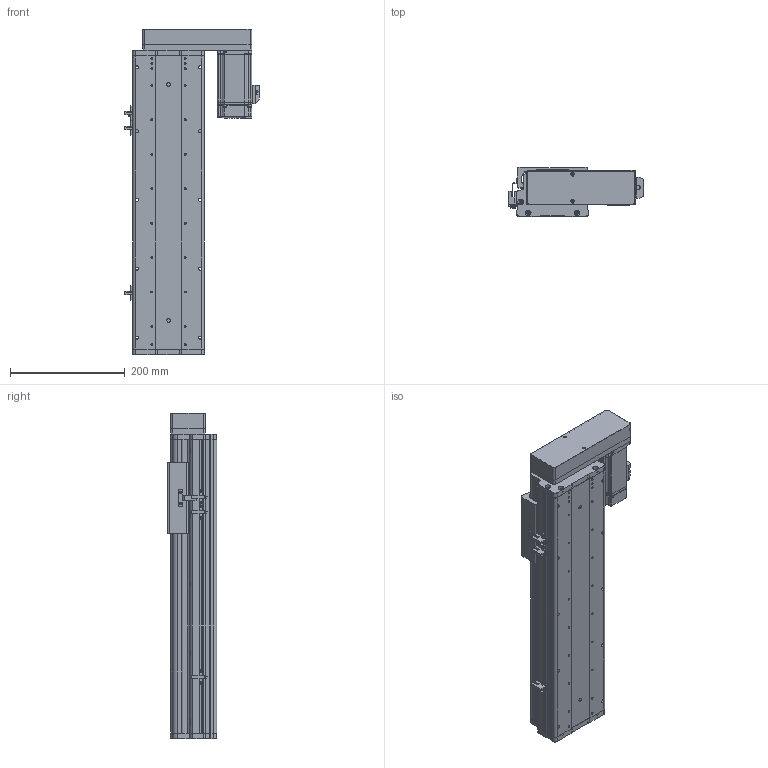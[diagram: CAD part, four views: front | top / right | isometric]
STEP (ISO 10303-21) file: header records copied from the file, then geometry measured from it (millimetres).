
FILE_DESCRIPTION (( 'STEP AP214' ), '1' );
FILE_NAME ('KSD125S-S300-MR-CM.STEP', '2017-10-21T08:52:59', ( '微软用户' ), ( '微软中国' ), 'SwSTEP 2.0', 'SolidWorks 2014', '' );
FILE_SCHEMA (( 'AUTOMOTIVE_DESIGN' ));
Length unit declared in the file: millimetre
Products named in the file (17): 125-帣傷啣1; KSD125S-S300-MR-CM; 肣翐M4X25樓6; HTPA30S3M150_A_H6_a佪裝蚚; HTPA30S3M150_A_H6_a萇儂蚚; 125宽马达安装板连板左右折丝杆; 125悵誘欶酘衵殏; KSD125S-300俴最佪裝滅鳥裔; KSD125S-300俴最佪裝菁啣; MHMD042G1CA_2_03; 拸萇儂釱滅袉菜; 拸萇儂釱滅袉菜-1; 覜茼え68遵圉猾敕; U倰嫖萇假蚾璃; U倰嫖萇EEㄜSX672; ヶ傷啣-125遵耀郪; KSD125-賑雄釱1
Assembly tree (21 placements, depth 2):
  KSD125S-S300-MR-CM
    125-帣傷啣1
    KSD125-賑雄釱1
    ヶ傷啣-125遵耀郪
    U倰嫖萇EEㄜSX672  x3
    U倰嫖萇假蚾璃  x3
    覜茼え68遵圉猾敕
    拸萇儂釱滅袉菜-1
    拸萇儂釱滅袉菜
    MHMD042G1CA_2_03
    KSD125S-300俴最佪裝菁啣
    KSD125S-300俴最佪裝滅鳥裔
    125悵誘欶酘衵殏
    125宽马达安装板连板左右折丝杆
    HTPA30S3M150_A_H6_a萇儂蚚
    HTPA30S3M150_A_H6_a佪裝蚚
    肣翐M4X25樓6  x2
Bounding box: 234.2 x 86 x 567.5 mm (x, y, z)
Volume: 2109926.6 mm3; surface area: 749885.5 mm2
Topology: 20 solids, 23 shells, 2191 faces, 6329 edges, 4171 vertices
Faces by surface type: cylinder 1350, plane 696, cone 123, bspline 22
Entity records: 76409 total; most frequent: CARTESIAN_POINT 15545, DIRECTION 11933, ORIENTED_EDGE 11094, EDGE_CURVE 5625, AXIS2_PLACEMENT_3D 4600, VERTEX_POINT 3742, VECTOR 2733, LINE 2733
